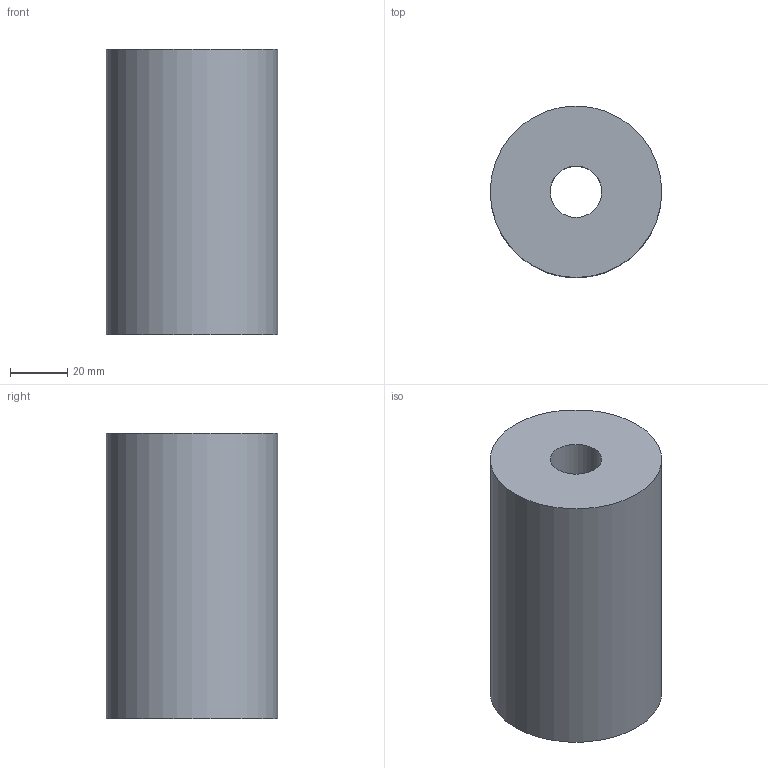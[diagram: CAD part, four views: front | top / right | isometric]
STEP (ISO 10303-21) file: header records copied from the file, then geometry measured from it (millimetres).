
FILE_DESCRIPTION(('FreeCAD Model'),'2;1');
FILE_NAME('Open CASCADE Shape Model','2026-07-06T10:14:56',(''),(''), 'Open CASCADE STEP processor 7.6','FreeCAD','Unknown');
FILE_SCHEMA(('AUTOMOTIVE_DESIGN { 1 0 10303 214 1 1 1 1 }'));
Products named in the file (1): Цилиндр 1
Bounding box: 60 x 60 x 100 mm (x, y, z)
Volume: 222375.9 mm3; surface area: 33537.2 mm2
Topology: 1 solids, 1 shells, 391 faces, 797 edges, 414 vertices
Faces by surface type: bspline 276, cylinder 95, plane 20
Full cylindrical faces by diameter (mm): 4.224 x88, 18 x1, 37 x1, 60 x1
Entity records: 40607 total; most frequent: CARTESIAN_POINT 34751, ORIENTED_EDGE 1594, EDGE_CURVE 797, B_SPLINE_CURVE_WITH_KNOTS 656, VERTEX_POINT 414, FACE_BOUND 399, EDGE_LOOP 399, DIRECTION 391
